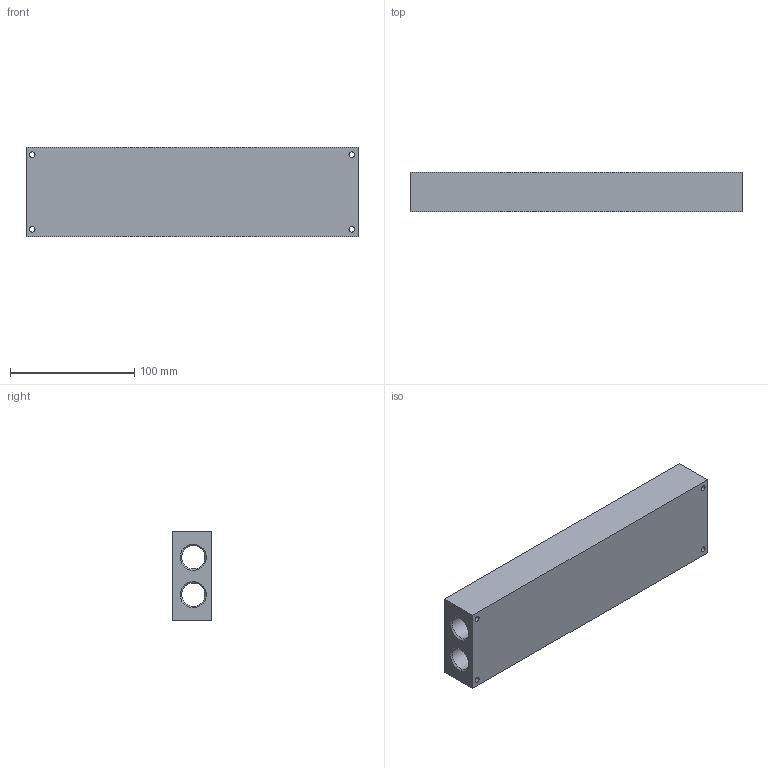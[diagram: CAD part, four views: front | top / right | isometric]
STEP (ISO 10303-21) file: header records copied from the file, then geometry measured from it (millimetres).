
FILE_DESCRIPTION( ( 'STEP AP203' ), '1' );
FILE_NAME( 'p:/temp/worker_185/temp/app_46_02018082413025317661145192d056f_000000_00_00_000000/format_2/MVSC-460-3B8.stp', '2018-08-24T11:03:02', ( '' ), ( '' ), ' ', 'PARTsolutions', ' ' );
FILE_SCHEMA( ( 'CONFIG_CONTROL_DESIGN' ) );
Length unit declared in the file: millimetre
Products named in the file (1): _MVSC-460-3B8
Bounding box: 267 x 32 x 72 mm (x, y, z)
Volume: 451955 mm3; surface area: 94143.9 mm2
Topology: 1 solids, 1 shells, 64 faces, 138 edges, 92 vertices
Faces by surface type: cylinder 38, plane 22, cone 4
Full cylindrical faces by diameter (mm): 3 x16, 4.5 x4, 12 x16, 18.631 x2
Entity records: 2948 total; most frequent: CARTESIAN_POINT 1573, DIRECTION 270, ORIENTED_EDGE 184, EDGE_LOOP 166, AXIS2_PLACEMENT_3D 129, FACE_OUTER_BOUND 102, EDGE_CURVE 92, VERTEX_POINT 88
